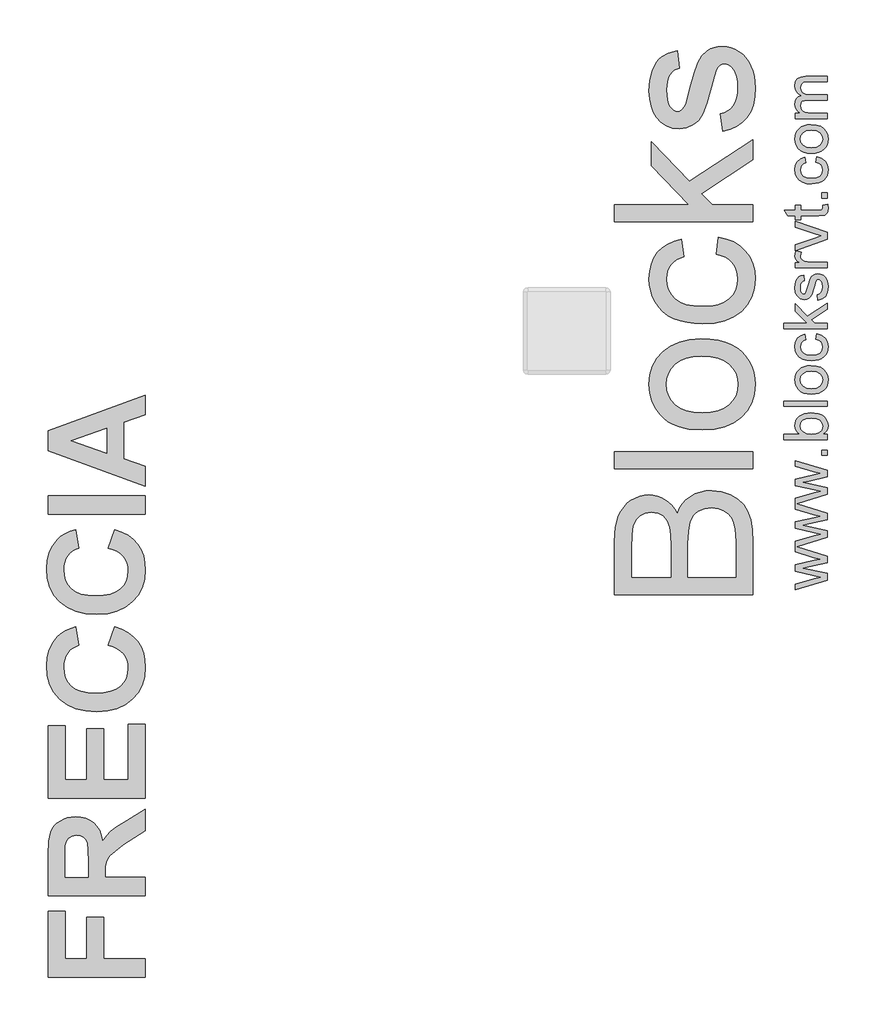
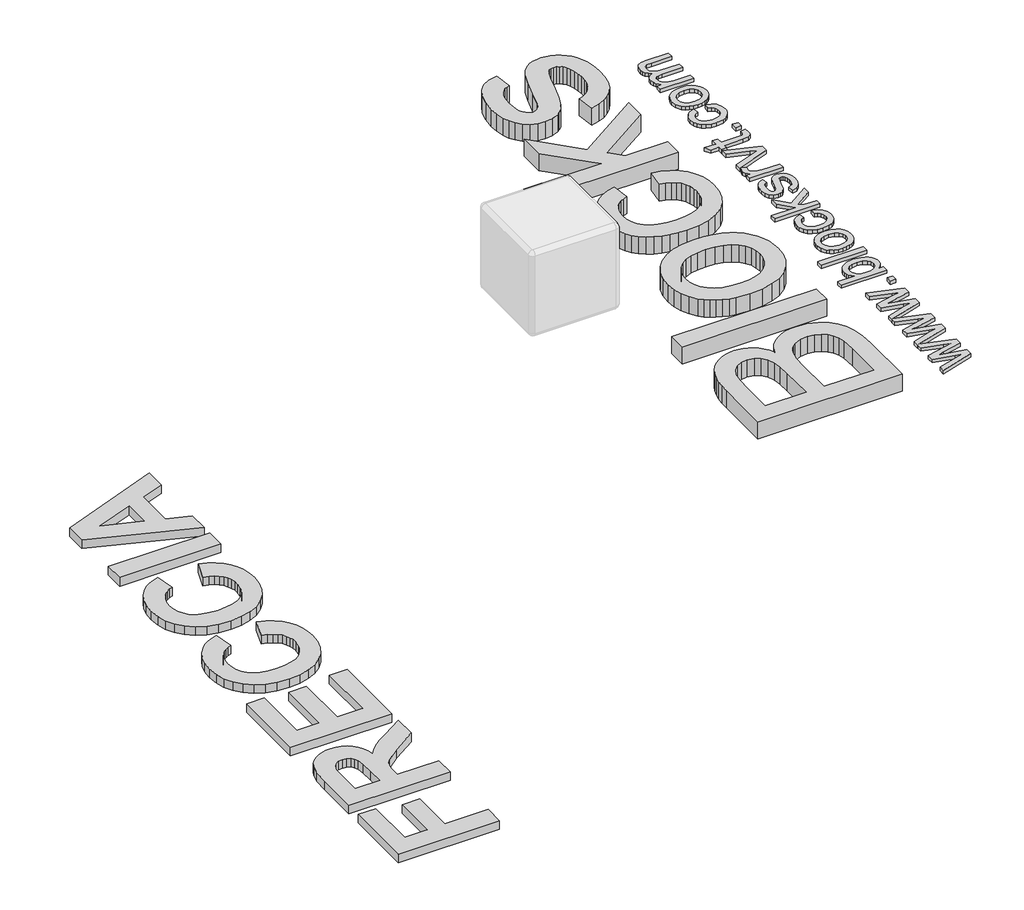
# One storey, part 17 of 17: 3 proxies.
"""IFC4 building model written with IfcOpenShell, lengths in millimetres."""

from ifc_helpers import new_model, si_unit, origin, origin_with_axes, place, context, project, spatial, polyline, outline, extrude, element, save

model = new_model("IFC4")

# Units and contexts
model_context = context("Model", 3, world=origin())
ifc_project = project(units=[si_unit("LENGTHUNIT", "METRE", prefix="MILLI")], contexts=[model_context])

# Site, building, storey
site = spatial("IfcSite", under=ifc_project)
building = spatial("IfcBuilding", under=site)
storey = spatial("IfcBuildingStorey", under=building, Name="PORTOBELLO - SHOWROOM", Elevation=0.0)

# Proxies
placement = place(None, origin())
element("IfcBuildingElementProxy", 1, Name="25mm Arial", ObjectType="25mm Arial", at=placement, inside=storey, context=model_context, shape_type="SweptSolid", body=[
    extrude(outline(polyline([(-857.2300241, 21656.6597374), (-1035.2500066, 21602.2713186), (-857.2300241, 21547.7053532), (-857.2300241, 21509.8135077), (-965.3873307, 21485.6559233), (-999.1098469, 21478.6661654), (-857.2300241, 21447.5801368), (-857.2300241, 21409.4430367), (-1035.2500066, 21355.0546178), (-857.2300241, 21300.4886524), (-857.2300241, 21262.5968069), (-965.3873307, 21238.4392226), (-999.1098469, 21231.4494647), (-857.2300241, 21200.3634361), (-857.2300241, 21162.2263359), (-1041.661531, 21105.879077), (-1041.661531, 21138.4366336), (-934.0560474, 21170.3197398), (-895.6123789, 21179.823358), (-932.6458331, 21187.6101936), (-1041.661531, 21212.9327376), (-1041.661531, 21250.2114464), (-932.9524014, 21275.5339904), (-899.4138262, 21282.4624347), (-934.7918114, 21292.3952486), (-1041.661531, 21324.2783548), (-1041.661531, 21353.0957778), (-1041.661531, 21357.0198524), (-1041.661531, 21385.6533343), (-934.0560474, 21417.5364406), (-895.6123789, 21427.0400588), (-932.6458331, 21434.8268943), (-1041.661531, 21460.1494384), (-1041.661531, 21497.4281472), (-932.9524014, 21522.7506912), (-899.4138262, 21529.6791354), (-934.7918114, 21539.6119493), (-1041.661531, 21571.4950556), (-1041.661531, 21600.3124785), (-1041.661531, 21604.2365531), (-1041.661531, 21632.8700351), (-934.0560474, 21664.7531413), (-895.6123789, 21674.2567595), (-932.6458331, 21682.0435951), (-1041.661531, 21707.3661391), (-1041.661531, 21744.644848), (-932.9524014, 21769.967392), (-899.4138262, 21776.8958362), (-934.7918114, 21786.8286501), (-1041.661531, 21818.7117563), (-1041.661531, 21851.4532539), (-857.2300241, 21794.922054), (-857.2300241, 21757.0302085), (-965.3873307, 21732.8726241), (-999.1098469, 21725.8828662), (-857.2300241, 21694.7968376), (-857.2300241, 21656.6597374)])), origin_with_axes(), (0.0, 0.0, 1.0), 20.0),
    extrude(outline(polyline([(-857.2300241, 21880.8838135), (-888.622621, 21880.8838135), (-888.622621, 21912.2764104), (-857.2300241, 21912.2764104), (-857.2300241, 21880.8838135)])), origin_with_axes(), (0.0, 0.0, 1.0), 20.0),
    extrude(outline(polyline([(-857.2300241, 22002.5301266), (-857.2300241, 21971.1375297), (-1108.3707995, 21971.1375297), (-1108.3707995, 22002.5301266), (-1015.235341, 22002.5301266), (-1028.5135818, 22012.8538151), (-1037.9980395, 22024.5110758), (-1043.6887141, 22037.5019087), (-1045.5856056, 22051.8263139), (-1043.8764872, 22067.9977933), (-1038.7491319, 22083.2802245), (-1030.5254364, 22096.7998878), (-1019.5272976, 22107.6830635), (-989.6368855, 22122.6742548), (-952.2048925, 22128.1005143), (-910.2970019, 22122.4826496), (-893.3667659, 22115.4603188), (-879.1190028, 22105.6290557), (-867.825792, 22093.8280911), (-859.7592128, 22080.8966558), (-854.9192653, 22066.8347497), (-853.3059495, 22051.6423729), (-855.386782, 22036.8466189), (-861.6292796, 22023.7293265), (-872.0334423, 22012.2904958), (-886.59927, 22002.5301266), (-857.2300241, 22002.5301266)]), holes=[polyline([(-950.7333645, 22002.5301266), (-924.5524292, 22004.6761049), (-906.8327798, 22011.1140398), (-890.2321047, 22027.5614307), (-884.6985464, 22048.9445716), (-888.7759052, 22067.0627599), (-901.0079815, 22082.5444605), (-921.3181333, 22093.1670531), (-949.6297185, 22096.7079173), (-978.355171, 22093.3126731), (-998.4353966, 22083.1269403), (-1010.2536057, 22068.1280848), (-1014.1930087, 22050.2934723), (-1010.1156499, 22032.175284), (-997.8835736, 22016.6935834), (-977.9413038, 22006.0709908), (-950.7333645, 22002.5301266)])]), origin_with_axes(), (0.0, 0.0, 1.0), 20.0),
    extrude(outline(polyline([(-857.2300241, 22163.4171858), (-1108.3707995, 22163.4171858), (-1108.3707995, 22194.8097827), (-857.2300241, 22194.8097827), (-857.2300241, 22163.4171858)])), origin_with_axes(), (0.0, 0.0, 1.0), 20.0),
    extrude(outline(polyline([(-949.4457775, 22234.0505289), (-973.3312825, 22235.748151), (-993.9135137, 22240.8410174), (-1011.1924712, 22249.329128), (-1025.1681549, 22261.2124828), (-1040.4812429, 22286.3817427), (-1045.5856056, 22316.5174095), (-1044.0316874, 22333.836604), (-1039.3699327, 22349.4964975), (-1031.6003416, 22363.4970899), (-1020.7229141, 22375.8383812), (-1007.1055321, 22385.9110668), (-991.1160777, 22393.1058423), (-972.7545508, 22397.4227076), (-952.0209515, 22398.8616627), (-920.3064578, 22396.3171456), (-896.1642019, 22388.6835942), (-878.0843347, 22376.1832705), (-864.5570072, 22359.0384367), (-856.1187139, 22338.6746355), (-853.3059495, 22316.5174095), (-854.8541195, 22298.945296), (-859.4986297, 22283.1397826), (-867.23948, 22269.1008692), (-878.0766705, 22256.8285557), (-891.82626, 22246.863169), (-908.3043078, 22239.7450356), (-927.5108136, 22235.4741556), (-949.4457775, 22234.0505289)]), holes=[polyline([(-949.5070912, 22265.4431258), (-921.0958713, 22269.0759605), (-900.8546973, 22279.9744646), (-888.7375841, 22296.3758702), (-884.6985464, 22316.5174095), (-888.7605768, 22336.5669782), (-900.9466678, 22352.937727), (-921.4560891, 22363.8362311), (-950.4881099, 22367.4690658), (-978.0715953, 22363.8132385), (-998.0368577, 22352.8457565), (-1010.153971, 22336.4520151), (-1014.1930087, 22316.5174095), (-1010.1692994, 22296.3758702), (-998.0981714, 22279.9744646), (-977.9029827, 22269.0759605), (-949.5070912, 22265.4431258)])]), origin_with_axes(), (0.0, 0.0, 1.0), 20.0),
    extrude(outline(polyline([(-923.9392925, 22551.9005727), (-920.0152179, 22583.2931696), (-892.0945073, 22574.5406438), (-870.9949421, 22558.093253), (-857.7281976, 22535.4991671), (-853.3059495, 22508.3065563), (-854.8483714, 22490.6999539), (-859.4756371, 22474.913601), (-867.1877466, 22460.9474976), (-877.9847, 22448.8016436), (-891.6633956, 22438.9703804), (-908.020732, 22431.9480497), (-948.7713272, 22426.330185), (-976.7073662, 22428.7290822), (-1000.9186, 22435.9257737), (-1020.4699952, 22448.0352227), (-1034.4265184, 22465.1723923), (-1042.7958338, 22485.6741494), (-1045.5856056, 22507.8773606), (-1041.7535015, 22534.4031853), (-1030.2571892, 22555.6100495), (-1011.7098052, 22570.8235028), (-986.7244864, 22579.369095), (-982.8004118, 22547.9764981), (-996.4963519, 22542.2819914), (-1006.3142026, 22533.4145024), (-1012.2233072, 22521.8645406), (-1014.1930087, 22508.1226153), (-1010.3149193, 22487.8354561), (-998.6806512, 22471.7329546), (-978.6617393, 22461.2253251), (-949.6297185, 22457.7227819), (-920.2068231, 22461.148683), (-900.1189334, 22471.4263863), (-888.5536431, 22487.2376478), (-884.6985464, 22507.264224), (-887.1051078, 22523.5200096), (-894.3247919, 22536.8480677), (-906.5415399, 22546.5432911), (-923.9392925, 22551.9005727)])), origin_with_axes(), (0.0, 0.0, 1.0), 20.0),
    extrude(outline(polyline([(-857.2300241, 22610.7616919), (-1108.3707995, 22610.7616919), (-1108.3707995, 22642.1542889), (-973.4194209, 22642.1542889), (-1041.661531, 22712.5423773), (-1041.661531, 22755.9524527), (-972.5610296, 22684.6446593), (-857.2300241, 22759.8765273), (-857.2300241, 22723.2109551), (-950.7333645, 22662.1425439), (-931.2969324, 22642.1542889), (-857.2300241, 22642.1542889), (-857.2300241, 22610.7616919)])), origin_with_axes(), (0.0, 0.0, 1.0), 20.0),
    extrude(outline(polyline([(-912.1670687, 22775.5728258), (-916.0911433, 22806.9654227), (-902.6634505, 22811.9165012), (-892.7919503, 22821.4967615), (-886.7218974, 22835.7675172), (-884.6985464, 22854.7900821), (-886.5532848, 22873.5827207), (-892.1175, 22886.7958156), (-900.180247, 22894.613308), (-909.5305811, 22897.2191388), (-917.5320145, 22894.5979796), (-923.6327242, 22886.734502), (-932.5845194, 22854.4222001), (-947.9435927, 22807.1493637), (-955.6614504, 22795.1855346), (-965.87784, 22786.5173151), (-977.9413038, 22781.2520041), (-991.200384, 22779.4969004), (-1014.5915475, 22785.1377576), (-1032.4644811, 22800.5274878), (-1041.7535015, 22820.485086), (-1045.5856056, 22847.4937558), (-1044.0450998, 22867.926535), (-1039.4235822, 22885.6921697), (-1032.1732412, 22899.9782538), (-1022.7462651, 22909.9723813), (-1010.4452109, 22916.5942573), (-994.5726356, 22920.7635865), (-990.648561, 22889.3709896), (-1000.5277254, 22885.408594), (-1007.9696716, 22877.5681089), (-1012.6371744, 22865.7728925), (-1014.1930087, 22849.9463025), (-1012.7061523, 22831.9200847), (-1008.2455831, 22819.9026062), (-1001.8076482, 22813.1427745), (-994.3886946, 22810.8894973), (-985.2529584, 22814.6296309), (-978.3245142, 22826.3405411), (-971.6413246, 22853.3798678), (-956.8647311, 22899.4570876), (-949.7983311, 22911.6278503), (-940.1261003, 22920.855557), (-927.8173819, 22926.6726911), (-912.841519, 22928.6117358), (-897.3598184, 22926.3354659), (-882.7978228, 22919.5066564), (-870.2974991, 22908.3858902), (-861.0008145, 22893.2337506), (-855.2296657, 22874.9316213), (-853.3059495, 22854.3608864), (-857.0154263, 22822.7077064), (-868.1438566, 22799.6077828), (-886.5686132, 22784.1873958), (-912.1670687, 22775.5728258)])), origin_with_axes(), (0.0, 0.0, 1.0), 20.0),
    extrude(outline(polyline([(-857.2300241, 23127.0227585), (-1041.661531, 23062.0302727), (-1041.661531, 23095.2009659), (-931.1743051, 23134.5643394), (-894.0182236, 23146.3978769), (-929.0896405, 23157.9861598), (-1041.661531, 23197.5334742), (-1041.661531, 23230.7654811), (-857.2300241, 23166.6927003), (-857.2300241, 23127.0227585)])), origin_with_axes(), (0.0, 0.0, 1.0), 20.0),
    extrude(outline(polyline([(-857.2300241, 22963.9284073), (-1041.661531, 22963.9284073), (-1041.661531, 22991.3969296), (-1014.3769497, 22991.3969296), (-1030.1958755, 23001.5443413), (-1039.5155527, 23010.8946754), (-1045.5856056, 23030.5150484), (-1043.1637158, 23046.1500332), (-1035.8980464, 23062.0302727), (-1007.7550738, 23051.5456358), (-1014.1930087, 23029.4727161), (-1012.6448386, 23020.0993894), (-1008.0003284, 23011.7224098), (-990.832502, 23000.4100385), (-954.1669298, 22995.3210042), (-857.2300241, 22995.3210042), (-857.2300241, 22963.9284073)])), origin_with_axes(), (0.0, 0.0, 1.0), 20.0),
    extrude(outline(polyline([(-883.4109594, 23324.9432719), (-856.3103191, 23328.8673465), (-853.3059495, 23305.3842125), (-854.6088649, 23290.3163791), (-858.5176111, 23279.0806498), (-872.1905586, 23265.9595253), (-907.8137984, 23262.1580781), (-1010.2689341, 23262.1580781), (-1010.2689341, 23238.6136304), (-1041.661531, 23238.6136304), (-1041.661531, 23262.1580781), (-1086.4818207, 23262.1580781), (-1104.9372342, 23293.550675), (-1041.661531, 23293.550675), (-1041.661531, 23324.9432719), (-1010.2689341, 23324.9432719), (-1010.2689341, 23293.550675), (-908.7335034, 23293.550675), (-892.5466956, 23295.206144), (-886.8138679, 23300.5710897), (-884.6985464, 23311.2703244), (-883.4109594, 23324.9432719)])), origin_with_axes(), (0.0, 0.0, 1.0), 20.0),
    extrude(outline(polyline([(-857.2300241, 23364.1840181), (-888.622621, 23364.1840181), (-888.622621, 23395.576615), (-857.2300241, 23395.576615), (-857.2300241, 23364.1840181)])), origin_with_axes(), (0.0, 0.0, 1.0), 20.0),
    extrude(outline(polyline([(-923.9392925, 23572.1599727), (-920.0152179, 23603.5525696), (-892.0945073, 23594.8000438), (-870.9949421, 23578.3526529), (-857.7281976, 23555.758567), (-853.3059495, 23528.5659562), (-854.8483714, 23510.9593539), (-859.4756371, 23495.173001), (-867.1877466, 23481.2068975), (-877.9847, 23469.0610435), (-891.6633956, 23459.2297804), (-908.020732, 23452.2074496), (-948.7713272, 23446.589585), (-976.7073662, 23448.9884822), (-1000.9186, 23456.1851737), (-1020.4699952, 23468.2946227), (-1034.4265184, 23485.4317923), (-1042.7958338, 23505.9335493), (-1045.5856056, 23528.1367606), (-1041.7535015, 23554.6625853), (-1030.2571892, 23575.8694494), (-1011.7098052, 23591.0829028), (-986.7244864, 23599.628495), (-982.8004118, 23568.235898), (-996.4963519, 23562.5413913), (-1006.3142026, 23553.6739024), (-1012.2233072, 23542.1239406), (-1014.1930087, 23528.3820152), (-1010.3149193, 23508.094856), (-998.6806512, 23491.9923545), (-978.6617393, 23481.4847251), (-949.6297185, 23477.9821819), (-920.2068231, 23481.408083), (-900.1189334, 23491.6857862), (-888.5536431, 23507.4970478), (-884.6985464, 23527.5236239), (-887.1051078, 23543.7794096), (-894.3247919, 23557.1074677), (-906.5415399, 23566.8026911), (-923.9392925, 23572.1599727)])), origin_with_axes(), (0.0, 0.0, 1.0), 20.0),
    extrude(outline(polyline([(-949.4457775, 23623.1729427), (-973.3312825, 23624.8705648), (-993.9135137, 23629.9634312), (-1011.1924712, 23638.4515418), (-1025.1681549, 23650.3348966), (-1040.4812429, 23675.5041565), (-1045.5856056, 23705.6398232), (-1044.0316874, 23722.9590178), (-1039.3699327, 23738.6189113), (-1031.6003416, 23752.6195037), (-1020.7229141, 23764.960795), (-1007.1055321, 23775.0334806), (-991.1160777, 23782.2282561), (-972.7545508, 23786.5451214), (-952.0209515, 23787.9840765), (-920.3064578, 23785.4395594), (-896.1642019, 23777.806008), (-878.0843347, 23765.3056843), (-864.5570072, 23748.1608505), (-856.1187139, 23727.7970492), (-853.3059495, 23705.6398232), (-854.8541195, 23688.0677098), (-859.4986297, 23672.2621964), (-867.23948, 23658.223283), (-878.0766705, 23645.9509695), (-891.82626, 23635.9855828), (-908.3043078, 23628.8674494), (-927.5108136, 23624.5965693), (-949.4457775, 23623.1729427)]), holes=[polyline([(-949.5070912, 23654.5655396), (-921.0958713, 23658.1983743), (-900.8546973, 23669.0968784), (-888.7375841, 23685.498284), (-884.6985464, 23705.6398232), (-888.7605768, 23725.689392), (-900.9466678, 23742.0601408), (-921.4560891, 23752.9586449), (-950.4881099, 23756.5914796), (-978.0715953, 23752.9356522), (-998.0368577, 23741.9681703), (-1010.153971, 23725.5744289), (-1014.1930087, 23705.6398232), (-1010.1692994, 23685.498284), (-998.0981714, 23669.0968784), (-977.9029827, 23658.1983743), (-949.5070912, 23654.5655396)])]), origin_with_axes(), (0.0, 0.0, 1.0), 20.0),
    extrude(outline(polyline([(-857.2300241, 23823.300748), (-1041.661531, 23823.300748), (-1041.661531, 23854.693345), (-1011.3112664, 23854.693345), (-1025.2524612, 23864.1356495), (-1036.1739579, 23876.2757553), (-1043.2326937, 23890.6997952), (-1045.5856056, 23906.9939019), (-1043.1867084, 23924.4529683), (-1035.9900169, 23938.4478125), (-1024.4707119, 23948.9017926), (-1009.1039744, 23955.7382663), (-1025.0646881, 23967.1809292), (-1036.4651978, 23980.2330758), (-1043.3055037, 23994.8947062), (-1045.5856056, 24011.1658202), (-1041.7918225, 24034.7639174), (-1030.4104733, 24052.2153195), (-1011.1349896, 24062.9988605), (-983.6588031, 24066.5933742), (-857.2300241, 24066.5933742), (-857.2300241, 24035.2007773), (-970.1697966, 24035.2007773), (-996.3813888, 24032.2883781), (-1009.2879154, 24021.7424276), (-1014.1930087, 24003.8081803), (-1011.0506833, 23986.8013023), (-1001.6237072, 23972.9367496), (-985.2682868, 23963.7167071), (-961.3406287, 23960.6433596), (-857.2300241, 23960.6433596), (-857.2300241, 23929.2507626), (-973.6646756, 23929.2507626), (-991.4149818, 23927.4343453), (-1004.0762538, 23921.9850932), (-1011.66382, 23912.3971687), (-1014.1930087, 23898.1647341), (-1012.5068829, 23886.0706135), (-1007.4485055, 23874.9268547), (-999.1405037, 23865.7298048), (-987.705505, 23859.4758109), (-950.2428552, 23854.693345), (-857.2300241, 23854.693345), (-857.2300241, 23823.300748)])), origin_with_axes(), (0.0, 0.0, 1.0), 20.0),
])
element("IfcBuildingElementProxy", 2, Name="550mm Arial", ObjectType="550mm Arial", at=placement, inside=storey, context=model_context, shape_type="SweptSolid", body=[
    extrude(outline(polyline([(-4792.9395119, 18870.8647228), (-5354.0821818, 18870.8647228), (-5354.0821818, 19253.8668626), (-5256.1048903, 19253.8668626), (-5256.1048903, 18977.7490409), (-5131.4065192, 18977.7490409), (-5131.4065192, 19218.2387566), (-5033.4292276, 19218.2387566), (-5033.4292276, 18977.7490409), (-4792.9395119, 18977.7490409), (-4792.9395119, 18870.8647228)])), origin_with_axes(), (0.0, 0.0, 1.0), 50.0),
    extrude(outline(polyline([(-4792.9395119, 19342.9371277), (-5354.0821818, 19342.9371277), (-5354.0821818, 19578.9733301), (-5350.289737, 19655.8660199), (-5338.9124023, 19708.4035591), (-5329.848807, 19727.5745419), (-5317.8278005, 19744.7275266), (-5302.8493829, 19759.862513), (-5284.9135541, 19772.9795013), (-5264.7944601, 19783.5739918), (-5243.2662466, 19791.141485), (-5220.3289137, 19795.6819809), (-5195.9824613, 19797.1954796), (-5165.634204, 19795.0078652), (-5138.051996, 19788.4450219), (-5113.2358371, 19777.5069498), (-5091.1857276, 19762.1936489), (-5072.4322616, 19742.5225156), (-5057.5060336, 19718.5109466), (-5046.4070435, 19690.1589418), (-5039.1352914, 19657.4665012), (-5016.798139, 19688.4671287), (-4992.3734023, 19713.5529338), (-4956.9888477, 19739.5085657), (-4901.772242, 19773.1186736), (-4792.9395119, 19841.7306121), (-4792.9395119, 19716.8930687), (-4921.1171902, 19635.6164518), (-4997.1748462, 19571.8059573), (-5010.3788172, 19554.0962835), (-5018.6769649, 19535.3428175), (-5023.060892, 19510.4483743), (-5024.5222011, 19474.3157687), (-5024.5222011, 19449.8214458), (-4792.9395119, 19449.8214458), (-4792.9395119, 19342.9371277)]), holes=[polyline([(-5122.4994926, 19449.8214458), (-5122.4994926, 19537.9175048), (-5124.1173705, 19607.4514598), (-5128.9710041, 19644.8714091), (-5137.7736514, 19663.9032196), (-5151.2385704, 19678.2727585), (-5169.0004338, 19687.3015607), (-5190.6939143, 19690.3111615), (-5214.7185308, 19686.3447512), (-5233.6285656, 19674.4455205), (-5246.9717088, 19655.3093308), (-5254.2956505, 19629.6320434), (-5256.1048903, 19542.788535), (-5256.1048903, 19449.8214458), (-5122.4994926, 19449.8214458)])]), origin_with_axes(), (0.0, 0.0, 1.0), 50.0),
    extrude(outline(polyline([(-4792.9395119, 19904.0797977), (-5354.0821818, 19904.0797977), (-5354.0821818, 20322.7100435), (-5256.1048903, 20322.7100435), (-5256.1048903, 20010.9641158), (-5131.4065192, 20010.9641158), (-5131.4065192, 20304.8959905), (-5033.4292276, 20304.8959905), (-5033.4292276, 20010.9641158), (-4890.9168034, 20010.9641158), (-4890.9168034, 20331.61707), (-4792.9395119, 20331.61707), (-4792.9395119, 19904.0797977)])), origin_with_axes(), (0.0, 0.0, 1.0), 50.0),
    extrude(outline(polyline([(-5006.708148, 20785.8754219), (-4971.080042, 20892.75974), (-4928.8195066, 20877.9987791), (-4892.3607159, 20859.045253), (-4861.7036701, 20835.8991616), (-4836.8483691, 20808.5605051), (-4817.6382441, 20777.1423608), (-4803.9167262, 20741.7578063), (-4795.6838154, 20702.4068415), (-4792.9395119, 20659.0894665), (-4797.6278784, 20605.569023), (-4811.6929778, 20557.0413854), (-4835.1348103, 20513.5065537), (-4867.9533757, 20474.9645279), (-4908.9048218, 20443.4246079), (-4956.7452962, 20420.8960935), (-5011.474799, 20407.378985), (-5073.09333, 20402.8732821), (-5138.0693925, 20407.4181272), (-5195.356186, 20421.0526624), (-5244.9537106, 20443.7768877), (-5286.8619662, 20475.5908032), (-5320.1676346, 20514.8156431), (-5343.9573978, 20559.7726416), (-5358.2312557, 20610.4617988), (-5362.9892083, 20666.8831147), (-5359.0662894, 20716.2196912), (-5347.2975327, 20760.6852376), (-5327.6829382, 20800.2797539), (-5300.2225059, 20835.00324), (-5279.685895, 20853.0695428), (-5255.0958912, 20868.7177271), (-5226.4524944, 20881.9477928), (-5193.7557047, 20892.75974), (-5175.9416517, 20785.8754219), (-5195.517104, 20779.1386133), (-5212.909291, 20769.5052814), (-5228.1182127, 20756.9754262), (-5241.1438692, 20741.5490478), (-5251.58614, 20723.7654387), (-5259.0449049, 20704.1638916), (-5263.5201638, 20682.7444065), (-5265.0119168, 20659.5069833), (-5262.3024063, 20627.7452575), (-5254.1738747, 20599.1236064), (-5240.6263222, 20573.6420301), (-5221.6597487, 20551.3005285), (-5196.6304823, 20533.1254974), (-5164.8948512, 20520.1433323), (-5126.4528555, 20512.3540332), (-5081.304495, 20509.7576002), (-5033.5162103, 20512.2757488), (-4993.1388499, 20519.8301946), (-4960.1724139, 20532.4209377), (-4934.6169023, 20550.0479779), (-4915.498109, 20571.7110145), (-4901.8418281, 20596.4097467), (-4893.6480596, 20624.1441745), (-4890.9168034, 20654.9142978), (-4892.6608062, 20677.8211868), (-4897.8928144, 20699.0841031), (-4906.6128282, 20718.7030467), (-4918.8208474, 20736.6780177), (-4934.7778202, 20752.6175939), (-4954.7446946, 20766.1303534), (-4978.7214705, 20777.2162961), (-5006.708148, 20785.8754219)])), origin_with_axes(), (0.0, 0.0, 1.0), 50.0),
    extrude(outline(polyline([(-5006.708148, 21347.0180919), (-4971.080042, 21453.90241), (-4928.8195066, 21439.1414491), (-4892.3607159, 21420.1879229), (-4861.7036701, 21397.0418316), (-4836.8483691, 21369.703175), (-4817.6382441, 21338.2850308), (-4803.9167262, 21302.9004762), (-4795.6838154, 21263.5495115), (-4792.9395119, 21220.2321365), (-4797.6278784, 21166.711693), (-4811.6929778, 21118.1840554), (-4835.1348103, 21074.6492237), (-4867.9533757, 21036.1071979), (-4908.9048218, 21004.5672778), (-4956.7452962, 20982.0387635), (-5011.474799, 20968.5216549), (-5073.09333, 20964.0159521), (-5138.0693925, 20968.5607971), (-5195.356186, 20982.1953323), (-5244.9537106, 21004.9195577), (-5286.8619662, 21036.7334732), (-5320.1676346, 21075.958313), (-5343.9573978, 21120.9153116), (-5358.2312557, 21171.6044688), (-5362.9892083, 21228.0257846), (-5359.0662894, 21277.3623612), (-5347.2975327, 21321.8279076), (-5327.6829382, 21361.4224238), (-5300.2225059, 21396.14591), (-5279.685895, 21414.2122128), (-5255.0958912, 21429.860397), (-5226.4524944, 21443.0904628), (-5193.7557047, 21453.90241), (-5175.9416517, 21347.0180919), (-5195.517104, 21340.2812833), (-5212.909291, 21330.6479514), (-5228.1182127, 21318.1180962), (-5241.1438692, 21302.6917178), (-5251.58614, 21284.9081087), (-5259.0449049, 21265.3065616), (-5263.5201638, 21243.8870765), (-5265.0119168, 21220.6496533), (-5262.3024063, 21188.8879275), (-5254.1738747, 21160.2662764), (-5240.6263222, 21134.7847), (-5221.6597487, 21112.4431985), (-5196.6304823, 21094.2681673), (-5164.8948512, 21081.2860022), (-5126.4528555, 21073.4967032), (-5081.304495, 21070.9002702), (-5033.5162103, 21073.4184188), (-4993.1388499, 21080.9728646), (-4960.1724139, 21093.5636076), (-4934.6169023, 21111.1906479), (-4915.498109, 21132.8536845), (-4901.8418281, 21157.5524167), (-4893.6480596, 21185.2868445), (-4890.9168034, 21216.0569678), (-4892.6608062, 21238.9638568), (-4897.8928144, 21260.2267731), (-4906.6128282, 21279.8457167), (-4918.8208474, 21297.8206877), (-4934.7778202, 21313.7602639), (-4954.7446946, 21327.2730234), (-4978.7214705, 21338.358966), (-5006.708148, 21347.0180919)])), origin_with_axes(), (0.0, 0.0, 1.0), 50.0),
    extrude(outline(polyline([(-4792.9395119, 21542.9726751), (-5354.0821818, 21542.9726751), (-5354.0821818, 21649.8569932), (-4792.9395119, 21649.8569932), (-4792.9395119, 21542.9726751)])), origin_with_axes(), (0.0, 0.0, 1.0), 50.0),
    extrude(outline(polyline([(-4792.9395119, 22228.8137161), (-4792.9395119, 22116.5016788), (-4917.637883, 22072.5232354), (-4917.637883, 21860.7030113), (-4792.9395119, 21817.281257), (-4792.9395119, 21703.2991522), (-5354.0821818, 21907.8824173), (-5354.0821818, 22022.0036944), (-4792.9395119, 22228.8137161)]), holes=[polyline([(-5015.6151746, 22038.2868523), (-5220.4767842, 21966.0564342), (-5015.6151746, 21894.8002221), (-5015.6151746, 22038.2868523)])]), origin_with_axes(), (0.0, 0.0, 1.0), 50.0),
])
element("IfcBuildingElementProxy", 3, Name="80mm Arial", ObjectType="80mm Arial", at=placement, inside=storey, context=model_context, shape_type="SweptSolid", body=[
    extrude(outline(polyline([(-1286.6734468, 21078.6818532), (-2086.0621451, 21078.6818532), (-2086.0621451, 21383.722023), (-2084.5923218, 21427.9691926), (-2080.182852, 21467.6178279), (-2072.8337356, 21502.667929), (-2062.5449727, 21533.1194958), (-2049.2067839, 21559.7470826), (-2032.7093899, 21583.3252435), (-2013.0527906, 21603.8539786), (-1990.2369862, 21621.3332877), (-1965.5488342, 21635.2935594), (-1940.2751925, 21645.265182), (-1914.4160611, 21651.2481556), (-1887.9714398, 21653.2424801), (-1863.5455385, 21651.5652959), (-1839.8393017, 21646.5337432), (-1816.8527294, 21638.147822), (-1794.5858216, 21626.4075324), (-1773.7338474, 21611.2762812), (-1754.992076, 21592.7174752), (-1738.3605072, 21570.7311146), (-1723.8391412, 21545.3171993), (-1710.9827616, 21575.4760213), (-1694.2719078, 21601.9389391), (-1673.7065797, 21624.7059527), (-1649.2867772, 21643.7770622), (-1621.7565603, 21658.8473249), (-1591.859989, 21669.6117983), (-1559.5970632, 21676.0704823), (-1524.9677829, 21678.223377), (-1469.2242777, 21672.3440839), (-1417.5304102, 21654.7062046), (-1373.5698867, 21628.3835604), (-1341.0264137, 21596.4499725), (-1317.4604505, 21557.344135), (-1300.4324563, 21509.5047418), (-1290.1131991, 21451.3704868), (-1286.6734468, 21381.3800639), (-1286.6734468, 21078.6818532)]), holes=[polyline([(-1761.3104864, 21178.6054405), (-1761.3104864, 21361.0830853), (-1763.4572822, 21424.9014701), (-1769.8976697, 21467.6422233), (-1784.7056818, 21504.9428007), (-1806.8811068, 21531.753353), (-1836.082409, 21547.9275079), (-1871.9680528, 21553.3188928), (-1906.8046941, 21548.293439), (-1937.1525804, 21533.2170774), (-1960.8405207, 21508.7728796), (-1975.6973236, 21475.6439168), (-1983.5282492, 21424.8038885), (-1986.1385578, 21347.2264941), (-1986.1385578, 21178.6054405), (-1761.3104864, 21178.6054405)]), polyline([(-1386.597034, 21178.6054405), (-1386.597034, 21383.5268598), (-1390.5002992, 21457.6888972), (-1399.1606687, 21492.1108166), (-1412.2610023, 21520.4338841), (-1431.0210703, 21543.4631484), (-1456.6606431, 21562.0036578), (-1488.0331366, 21574.2257567), (-1523.9919666, 21578.2997897), (-1565.7569034, 21573.5182899), (-1601.6669426, 21559.1737905), (-1616.9323686, 21548.12877), (-1629.7460562, 21534.1197075), (-1640.1080053, 21517.146603), (-1648.018216, 21497.2094566), (-1658.0447283, 21444.9300993), (-1661.3868991, 21373.7686969), (-1661.3868991, 21178.6054405), (-1386.597034, 21178.6054405)])]), origin_with_axes(), (0.0, 0.0, 1.0), 100.0),
    extrude(outline(polyline([(-1286.6734468, 21803.1278611), (-2086.0621451, 21803.1278611), (-2086.0621451, 21903.0514484), (-1286.6734468, 21903.0514484), (-1286.6734468, 21803.1278611)])), origin_with_axes(), (0.0, 0.0, 1.0), 100.0),
    extrude(outline(polyline([(-1580.1989844, 22027.9559325), (-1656.2272705, 22033.3595152), (-1690.2985059, 22040.1139935), (-1721.7411362, 22049.5702631), (-1750.5551613, 22061.7283241), (-1776.7405814, 22076.5881765), (-1800.2973963, 22094.1498201), (-1821.2256061, 22114.4132551), (-1849.658453, 22152.4944855), (-1869.9676294, 22194.5277719), (-1882.1531352, 22240.5131142), (-1886.2149705, 22290.4505124), (-1881.2688017, 22345.5780335), (-1866.4302954, 22395.4239489), (-1841.6994515, 22439.9882588), (-1807.07627, 22479.270963), (-1763.7317305, 22511.3326267), (-1712.8368126, 22534.2338151), (-1654.3915161, 22547.9745281), (-1588.3958412, 22552.5547658), (-1534.9089112, 22550.529947), (-1487.4476468, 22544.4554906), (-1446.0120479, 22534.3313967), (-1410.6021146, 22520.1576652), (-1380.016373, 22502.1111628), (-1353.0533493, 22480.3687563), (-1329.7130436, 22454.9304456), (-1309.9954559, 22425.7962307), (-1294.3275057, 22394.1004981), (-1283.1361127, 22360.9776342), (-1276.4212769, 22326.4276389), (-1274.1829983, 22290.4505124), (-1279.1108706, 22234.5179429), (-1293.8944872, 22184.2085147), (-1318.5338484, 22139.5222278), (-1353.0289539, 22100.4590823), (-1396.7943142, 22068.7389542), (-1449.2444394, 22046.0817199), (-1510.3793294, 22032.4873794), (-1580.1989844, 22027.9559325)]), holes=[polyline([(-1580.3941477, 22127.8795198), (-1531.9265727, 22130.7703755), (-1489.9603737, 22139.4429427), (-1454.4955507, 22153.8972214), (-1425.5321037, 22174.1332116), (-1403.0334395, 22198.7481773), (-1386.9629652, 22226.3393827), (-1377.3206805, 22256.9068277), (-1374.1065856, 22290.4505124), (-1377.3389771, 22323.8234292), (-1387.0361514, 22354.2688972), (-1403.1981085, 22381.7869164), (-1425.8248486, 22406.3774867), (-1455.0749416, 22426.6134769), (-1491.1069579, 22441.0677555), (-1533.9208972, 22449.7403227), (-1583.5167598, 22452.6311785), (-1630.4474241, 22449.7220262), (-1671.3158298, 22440.9945693), (-1706.1219768, 22426.4488079), (-1734.8658651, 22406.0847418), (-1757.3645293, 22381.4026887), (-1773.4350037, 22353.9029661), (-1783.0772883, 22323.585574), (-1786.2913832, 22290.4505124), (-1783.089486, 22256.9068277), (-1773.4837945, 22226.3393827), (-1757.4743086, 22198.7481773), (-1735.0610284, 22174.1332116), (-1706.1829653, 22153.8972214), (-1670.7791308, 22139.4429427), (-1628.8495249, 22130.7703755), (-1580.3941477, 22127.8795198)])]), origin_with_axes(), (0.0, 0.0, 1.0), 100.0),
    extrude(outline(polyline([(-1499.0110697, 23039.6822538), (-1486.5206213, 23139.6058411), (-1439.3703984, 23128.7376873), (-1397.6481534, 23111.7462863), (-1361.3538866, 23088.6316381), (-1330.4875978, 23059.3937427), (-1305.8543355, 23025.2645683), (-1288.2591482, 22987.4760827), (-1277.7020358, 22946.0282861), (-1274.1829983, 22900.9211785), (-1279.092574, 22844.8788297), (-1293.821301, 22794.63039), (-1318.3691794, 22750.1758595), (-1352.7362091, 22711.5152381), (-1396.2759118, 22680.2220297), (-1448.3418093, 22657.869738), (-1508.9339016, 22644.458363), (-1578.0521886, 22639.9879047), (-1623.9948389, 22641.8968453), (-1666.9734473, 22647.6236671), (-1706.9880137, 22657.1683701), (-1744.0385382, 22670.5309543), (-1777.3809608, 22687.8029025), (-1806.2712216, 22709.0756974), (-1830.7093206, 22734.3493391), (-1850.6952578, 22763.6238276), (-1866.2351321, 22795.575712), (-1877.3350423, 22828.8815415), (-1883.9949885, 22863.541316), (-1886.2149705, 22899.5550357), (-1883.1655446, 22943.8875892), (-1874.017267, 22983.9875395), (-1858.7701376, 23019.8548867), (-1837.4241564, 23051.4896308), (-1810.4672316, 23078.3550729), (-1778.3872713, 23099.9145138), (-1741.1842756, 23116.1679538), (-1698.8582443, 23127.1153927), (-1686.3677959, 23027.1918054), (-1709.7081016, 23019.391374), (-1729.9623883, 23009.066018), (-1747.130656, 22996.2157373), (-1761.2129048, 22980.840532), (-1772.1847391, 22963.3307286), (-1780.0217636, 22944.0766536), (-1784.7239783, 22923.078307), (-1786.2913832, 22900.3356887), (-1783.2053642, 22866.383381), (-1773.9473072, 22835.7610463), (-1758.5172123, 22808.4686846), (-1736.9150793, 22784.506296), (-1708.6408026, 22764.9960693), (-1673.1942761, 22751.060193), (-1630.5755, 22742.6986672), (-1580.7844742, 22739.911492), (-1530.2432896, 22742.6376787), (-1487.1305065, 22750.8162389), (-1451.4461248, 22764.4471726), (-1423.1901446, 22783.5304798), (-1401.7160876, 22807.0171579), (-1386.3774754, 22833.8582045), (-1377.1743081, 22864.0536196), (-1374.1065856, 22897.6034031), (-1376.0216251, 22924.639613), (-1381.7667434, 22949.3460615), (-1391.3419407, 22971.7227486), (-1404.7472169, 22991.7696744), (-1422.1289444, 23008.9257444), (-1443.6334957, 23022.6298643), (-1469.2608708, 23032.8820341), (-1499.0110697, 23039.6822538)])), origin_with_axes(), (0.0, 0.0, 1.0), 100.0),
    extrude(outline(polyline([(-1286.6734468, 23227.03898), (-2086.0621451, 23227.03898), (-2086.0621451, 23326.9625673), (-1656.5078177, 23326.9625673), (-1873.7245221, 23551.0099857), (-1873.7245221, 23689.1855712), (-1653.7755321, 23462.210704), (-1286.6734468, 23701.6760196), (-1286.6734468, 23584.9683923), (-1584.2974128, 23390.5857889), (-1522.4306605, 23326.9625673), (-1286.6734468, 23326.9625673), (-1286.6734468, 23227.03898)])), origin_with_axes(), (0.0, 0.0, 1.0), 100.0),
    extrude(outline(polyline([(-1461.5397245, 23751.6378133), (-1474.0301729, 23851.5614006), (-1451.2448627, 23857.5992638), (-1431.2894198, 23867.3208335), (-1414.163844, 23880.7261097), (-1399.8681355, 23897.8150924), (-1388.5974574, 23918.6365723), (-1380.5469731, 23943.2393403), (-1375.7166825, 23971.6233964), (-1374.1065856, 24003.7887406), (-1375.5825078, 24035.9174917), (-1380.0102741, 24063.6062787), (-1387.3898848, 24086.8551016), (-1397.7213397, 24105.6639605), (-1410.0410202, 24120.1792277), (-1423.3853079, 24130.5472757), (-1437.7542026, 24136.7681045), (-1453.1477045, 24138.841714), (-1466.6383646, 24136.7559067), (-1478.6165095, 24130.4984848), (-1489.0821391, 24120.0694483), (-1498.0352535, 24105.4687972), (-1510.7208651, 24068.0462428), (-1526.5290889, 24002.6177611), (-1552.9005239, 23911.4277295), (-1575.4174846, 23852.1468904), (-1599.9836595, 23814.0656599), (-1615.2490855, 23798.9588041), (-1632.5027371, 23786.4744546), (-1670.9011079, 23769.7148099), (-1713.1051621, 23764.1282617), (-1751.820673, 23768.6170166), (-1787.5599444, 23782.0832813), (-1818.9080424, 23803.3072854), (-1844.4500336, 23831.0692587), (-1860.5266069, 23858.660464), (-1874.017267, 23894.5948986), (-1883.1655446, 23936.1402768), (-1886.2149705, 23980.5643131), (-1881.3114937, 24045.6024683), (-1866.6010632, 24102.1510218), (-1843.5230082, 24147.6240606), (-1829.3858698, 24165.2375445), (-1813.5166575, 24179.4356714), (-1774.3620292, 24200.5133031), (-1723.8391412, 24213.7844045), (-1711.3486927, 24113.8608172), (-1728.04125, 24109.097614), (-1742.7943724, 24101.2483918), (-1755.60806, 24090.3131506), (-1766.4823127, 24076.2918904), (-1775.148781, 24059.1236226), (-1781.3391156, 24038.7473589), (-1786.2913832, 23988.3708433), (-1781.5586742, 23930.992846), (-1775.642788, 23909.4760969), (-1767.3605473, 23892.7408477), (-1746.8684054, 23871.2240987), (-1735.4513549, 23865.8449114), (-1723.2536514, 23864.051849), (-1707.8845449, 23867.0280887), (-1694.1743262, 23875.9568076), (-1681.9278318, 23891.2283325), (-1672.1208782, 23913.2329896), (-1650.8480833, 23999.2999857), (-1624.7449977, 24087.5869638), (-1603.8137385, 24145.9651729), (-1581.3211731, 24184.7050793), (-1550.5341694, 24214.0771494), (-1532.0058578, 24224.8782159), (-1511.3551457, 24232.5932634), (-1488.5820332, 24237.2222918), (-1463.6865203, 24238.7653013), (-1438.6812281, 24236.9539424), (-1414.4077981, 24231.5198654), (-1390.8662303, 24222.4630706), (-1368.0565247, 24209.7835578), (-1346.8874102, 24193.688688), (-1328.2676158, 24174.3858221), (-1312.1971414, 24151.8749603), (-1298.675987, 24126.1561024), (-1287.9603045, 24097.9306164), (-1280.3062455, 24067.8998703), (-1275.7138101, 24036.0638641), (-1274.1829983, 24002.4225978), (-1277.1348426, 23948.642923), (-1285.9903754, 23901.6695667), (-1300.7495966, 23861.502529), (-1321.4125064, 23828.1418098), (-1347.881523, 23800.8921401), (-1380.059065, 23779.0582508), (-1417.9451321, 23762.6401419), (-1461.5397245, 23751.6378133)])), origin_with_axes(), (0.0, 0.0, 1.0), 100.0),
])

save(model, "model.ifc")
